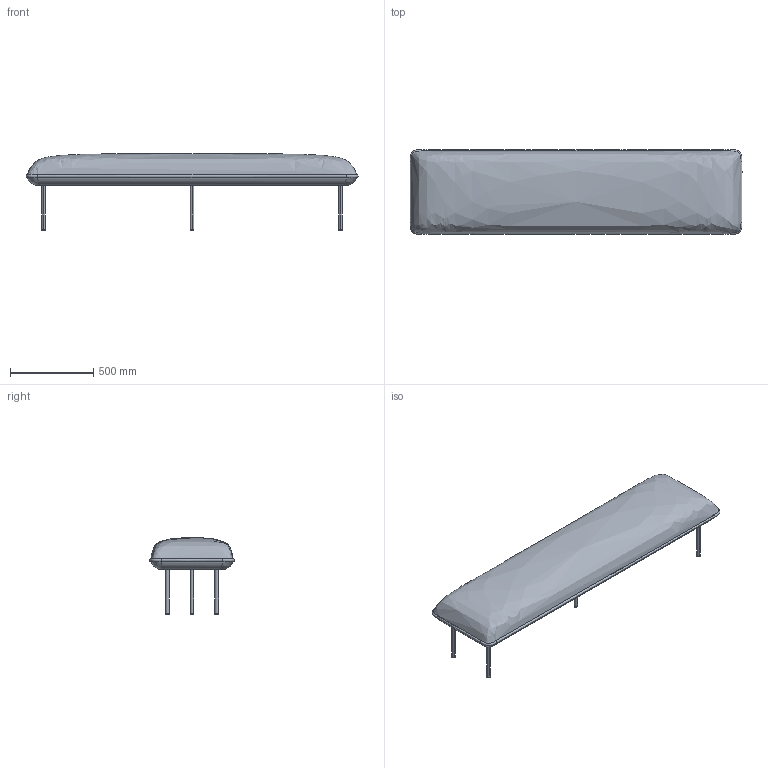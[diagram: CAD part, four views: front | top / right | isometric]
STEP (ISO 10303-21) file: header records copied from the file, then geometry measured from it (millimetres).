
FILE_DESCRIPTION(/* description */ (''),/* implementation_level */ '2;1');
FILE_NAME(/* name */ 'Nakki long ottoman',/* time_stamp */ '2020-04-03T17:02:11+02:00',/* author */ (''),/* organization */ (''),/* preprocessor_version */ 'ST-DEVELOPER v15',/* originating_system */ '',/* authorisation */ '');
FILE_SCHEMA (('AUTOMOTIVE_DESIGN'));
Length unit declared in the file: millimetre
Products named in the file (1): Document
Bounding box: 2000 x 510 x 459.88 mm (x, y, z)
Volume: 161496952.7 mm3; surface area: 2829298.1 mm2
Topology: 12 solids, 12 shells, 84 faces, 160 edges, 98 vertices
Faces by surface type: bspline 84
Entity records: 12820 total; most frequent: CARTESIAN_POINT 10769, ORIENTED_EDGE 320, PCURVE 320, DEFINITIONAL_REPRESENTATION 320, B_SPLINE_CURVE_WITH_KNOTS 316, SURFACE_CURVE 160, EDGE_CURVE 160, VERTEX_POINT 98
